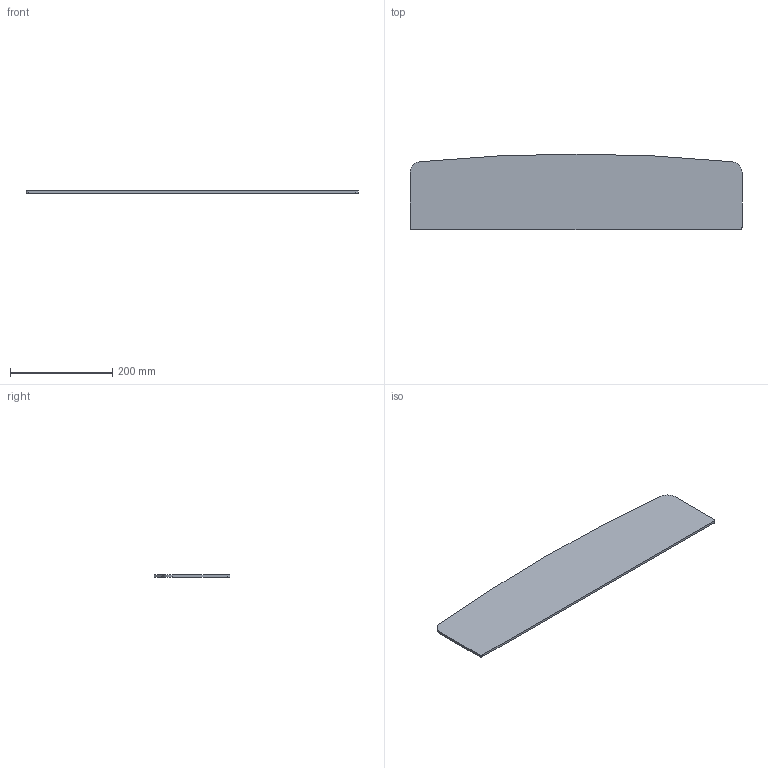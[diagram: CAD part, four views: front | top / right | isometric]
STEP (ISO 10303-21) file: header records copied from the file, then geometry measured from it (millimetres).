
FILE_DESCRIPTION(('Open CASCADE Model'),'2;1');
FILE_NAME('Open CASCADE Shape Model','2026-09-26T16:24:15',('Author'),( 'Open CASCADE'),'Open CASCADE STEP processor 7.9','Open CASCADE 7.9' ,'Unknown');
FILE_SCHEMA(('AUTOMOTIVE_DESIGN { 1 0 10303 214 1 1 1 1 }'));
Length unit declared in the file: millimetre
Products named in the file (1): Open CASCADE STEP translator 7.9 5
Bounding box: 648.4 x 148.4 x 4.5 mm (x, y, z)
Volume: 415573.9 mm3; surface area: 191637.3 mm2
Topology: 1 solids, 1 shells, 10 faces, 24 edges, 16 vertices
Faces by surface type: plane 5, cylinder 5
Entity records: 620 total; most frequent: DIRECTION 104, CARTESIAN_POINT 99, LINE 52, VECTOR 52, ORIENTED_EDGE 48, PCURVE 48, DEFINITIONAL_REPRESENTATION 48, EDGE_CURVE 24
